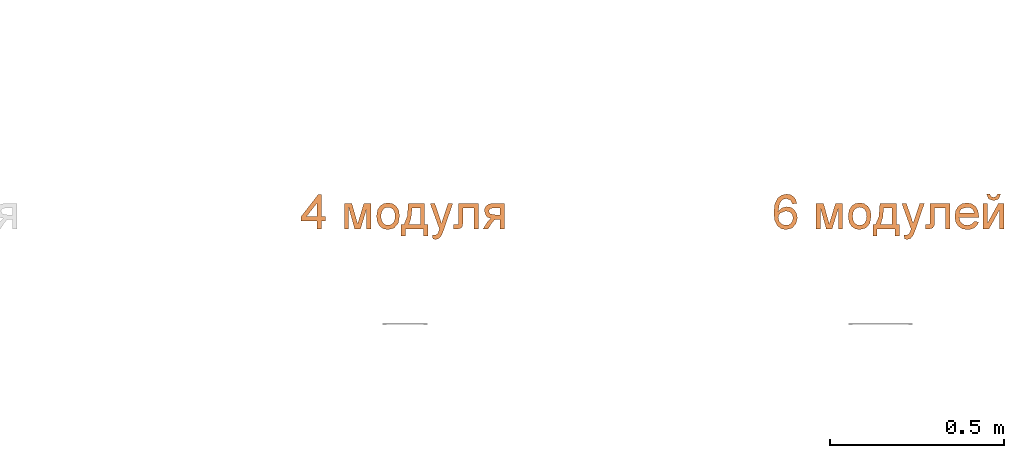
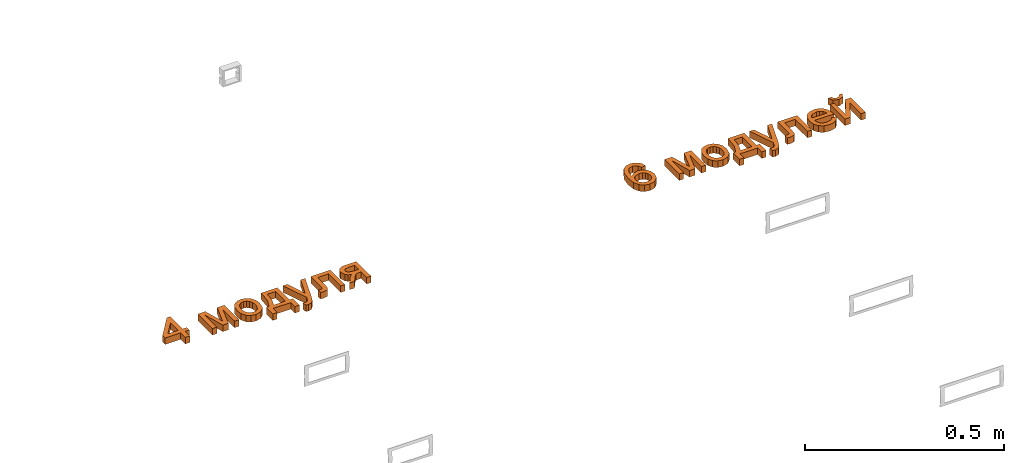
# One storey, part 61 of 87: 2 proxies.
"""IFC2X3 building model written with IfcOpenShell, lengths in millimetres."""

from ifc_helpers import new_model, entity, si_unit, converted_unit, derived_unit, direction, frame, origin, place, context, subcontext, project, spatial, polyline, outline, extrude, element, save


model = new_model("IFC2X3")

# Units and contexts
model_context = context("Model", 3, precision=0.01, world=origin(), true_north=direction((6.12303176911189e-17, 1.0)))
body_context = subcontext(model_context, "Body", "Model", "MODEL_VIEW")
ifc_project = project(units=[si_unit("LENGTHUNIT", "METRE", prefix="MILLI"), si_unit("AREAUNIT", "SQUARE_METRE"), si_unit("VOLUMEUNIT", "CUBIC_METRE"), converted_unit("PLANEANGLEUNIT", "DEGREE", entity("IfcRatioMeasure", 0.0174532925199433), si_unit("PLANEANGLEUNIT", "RADIAN"), dimensions=[0, 0, 0, 0, 0, 0, 0]), si_unit("MASSUNIT", "GRAM", prefix="KILO"), derived_unit("MASSDENSITYUNIT", [(si_unit("MASSUNIT", "GRAM", prefix="KILO"), 1), (si_unit("LENGTHUNIT", "METRE"), -3)]), si_unit("TIMEUNIT", "SECOND"), si_unit("FREQUENCYUNIT", "HERTZ"), si_unit("THERMODYNAMICTEMPERATUREUNIT", "DEGREE_CELSIUS"), derived_unit("THERMALTRANSMITTANCEUNIT", [(si_unit("MASSUNIT", "GRAM", prefix="KILO"), 1), (si_unit("THERMODYNAMICTEMPERATUREUNIT", "KELVIN"), -1), (si_unit("TIMEUNIT", "SECOND"), -3)]), derived_unit("VOLUMETRICFLOWRATEUNIT", [(si_unit("LENGTHUNIT", "METRE"), 3), (si_unit("TIMEUNIT", "SECOND"), -1)]), si_unit("ELECTRICCURRENTUNIT", "AMPERE"), si_unit("ELECTRICVOLTAGEUNIT", "VOLT"), si_unit("POWERUNIT", "WATT"), si_unit("FORCEUNIT", "NEWTON", prefix="KILO"), si_unit("ILLUMINANCEUNIT", "LUX"), si_unit("LUMINOUSFLUXUNIT", "LUMEN"), si_unit("LUMINOUSINTENSITYUNIT", "CANDELA"), derived_unit("USERDEFINED", [(si_unit("MASSUNIT", "GRAM", prefix="KILO"), -1), (si_unit("LENGTHUNIT", "METRE"), -2), (si_unit("TIMEUNIT", "SECOND"), 3), (si_unit("LUMINOUSFLUXUNIT", "LUMEN"), 1)]), derived_unit("LINEARVELOCITYUNIT", [(si_unit("LENGTHUNIT", "METRE"), 1), (si_unit("TIMEUNIT", "SECOND"), -1)]), si_unit("PRESSUREUNIT", "PASCAL"), derived_unit("USERDEFINED", [(si_unit("LENGTHUNIT", "METRE"), -2), (si_unit("MASSUNIT", "GRAM", prefix="KILO"), 1), (si_unit("TIMEUNIT", "SECOND"), -2)])], contexts=[model_context])

# Site, building, storey
site_placement = place(None, origin())
site = spatial("IfcSite", under=ifc_project, at=site_placement, Name="Default", CompositionType="ELEMENT")
building_placement = place(site_placement, origin())
building = spatial("IfcBuilding", under=site, at=building_placement, Name="Наименование здания", CompositionType="ELEMENT")
storey_placement = place(building_placement, origin())
storey = spatial("IfcBuildingStorey", under=building, at=storey_placement, Name="Этаж 01", CompositionType="ELEMENT", Elevation=0.0)

# Proxies
proxy_1_placement = place(storey_placement, origin())
element("IfcBuildingElementProxy", 1, at=proxy_1_placement, inside=storey, Name="Текст модели:100 мм Arial", ObjectType="Текст модели:100 мм Arial", context=body_context, shape_type="SweptSolid", body=[
    extrude(outline(polyline([(-1.14154897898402, -36.3868737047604), (11.4154897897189, -36.3868737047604), (11.4154897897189, -12.8424260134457), (23.9725285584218, -12.8424260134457), (23.9725285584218, -0.285387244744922), (11.4154897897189, -0.285387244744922), (11.4154897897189, 62.4998065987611), (1.99771071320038, 62.4998065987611), (-46.6608145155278, -0.285387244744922), (-46.6608145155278, -12.8424260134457), (-1.14154897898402, -12.8424260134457), (-1.14154897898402, -36.3868737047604)]), holes=[polyline([(-1.14154897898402, -0.285387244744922), (-31.2097707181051, -0.285387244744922), (-1.14154897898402, 38.5139005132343), (-1.14154897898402, -0.285387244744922)])]), frame((78423.44524561, -7332.08752143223, 0.0)), (0.0, 0.0, 1.0), 20.0),
    extrude(outline(polyline([(-40.5839870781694, -38.4502715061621), (33.1886156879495, -38.4502715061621), (33.1886156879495, -25.8932327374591), (-29.0570178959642, -25.8932327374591), (33.1886156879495, -8.62730443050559), (33.1886156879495, 7.8538089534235), (-26.2120637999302, 25.9045521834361), (33.1886156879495, 25.9045521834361), (33.1886156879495, 38.4615909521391), (-40.5839870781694, 38.4615909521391), (-40.5839870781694, 17.762097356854), (18.4733358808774, -0.190544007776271), (-40.5839870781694, -16.8433356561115), (-40.5839870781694, -38.4502715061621)])), frame((78539.2354604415, -7335.28577944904, 0.0), z_axis=(0.0, 0.0, 1.0), x_axis=(0.0, -1.0, 0.0)), (0.0, 0.0, 1.0), 20.0),
    extrude(outline(polyline([(-2.340297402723, -31.6984909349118), (14.273181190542, -31.6984909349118), (27.1869525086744, -26.5873672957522), (35.9909592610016, -17.1811275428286), (40.2751441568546, -4.2957792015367), (38.149171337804, 13.1690451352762), (27.2514955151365, 26.6485362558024), (5.67797919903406, 33.7446283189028), (-10.128054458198, 33.6081083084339), (-22.8059382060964, 28.39005695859), (-31.6389568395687, 18.9754531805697), (-35.9103951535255, 6.24927588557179), (-35.5406401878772, -5.97109031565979), (-30.8535887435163, -16.7835237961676), (-19.587012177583, -26.5692340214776), (-2.340297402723, -31.6984909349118)]), holes=[polyline([(-0.64294961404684, -19.2566729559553), (-11.6948097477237, -16.2599663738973), (-19.0989004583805, -10.8341828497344), (-22.9822632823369, -3.67356758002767), (-23.4719397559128, 4.52763423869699), (-20.7783225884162, 12.2046648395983), (-15.0781786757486, 18.035705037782), (-6.56600936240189, 21.2863283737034), (4.56368400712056, 21.2221083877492), (15.8675929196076, 18.1905150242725), (23.3961896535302, 12.7474982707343), (27.3267847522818, 5.5927250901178), (27.8366887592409, -2.57413755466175), (25.131722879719, -10.3331599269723), (19.4311586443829, -16.1672368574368), (10.8134498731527, -19.3753979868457), (-0.64294961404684, -19.2566729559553)])]), frame((78625.113361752, -7329.56024644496, 0.0), z_axis=(0.0, 0.0, 1.0), x_axis=(0.13710570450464, -0.99055642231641, 0.0)), (0.0, 0.0, 1.0), 20.0),
    extrude(outline(polyline([(-60.5357741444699, 21.8585403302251), (-64.1355131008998, -25.0925613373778), (-3.09908093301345, -29.7722219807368), (-3.81902872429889, -39.1624423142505), (29.0467424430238, -41.6822595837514), (30.0066728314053, -29.1619658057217), (9.66119544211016, -27.602078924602), (13.6209082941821, 24.0441329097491), (33.9663856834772, 22.4842460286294), (34.9263160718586, 35.0045398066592), (2.06054490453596, 37.5243570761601), (1.46058841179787, 29.6991734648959), (-23.1599571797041, 21.8585403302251), (-60.5357741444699, 21.8585403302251)]), holes=[polyline([(-48.8554194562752, 9.94335288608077), (-20.1051961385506, 10.6907678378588), (0.380666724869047, 15.6138429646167), (-2.13915054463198, -17.251928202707), (-50.6552889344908, -13.5321979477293), (-48.8554194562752, 9.94335288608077)])]), frame((78701.5987640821, -7356.73141319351, 0.0), z_axis=(0.0, 0.0, -1.0), x_axis=(-0.0764456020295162, -0.9970737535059, 0.0)), (0.0, 0.0, -1.0), 20.0),
    extrude(outline(polyline([(-9.37518561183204, -42.4598564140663), (-1.53988444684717, -42.4598564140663), (7.48239978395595, -37.7362595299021), (12.8451650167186, -27.6028387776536), (16.0988896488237, -10.2155558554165), (26.1240678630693, 68.9356869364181), (13.2448947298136, 66.3022457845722), (7.58427059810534, 21.3872733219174), (5.6533311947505, 6.22303112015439), (-2.4583338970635, 21.2864004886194), (-24.5276055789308, 58.5787952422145), (-37.5028919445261, 55.9257015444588), (3.36457727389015, -10.7416452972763), (3.01267387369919, -13.9176809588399), (1.50096319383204, -23.664192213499), (-1.30543571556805, -28.1807080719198), (-6.86672236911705, -30.7321996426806), (-13.3351736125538, -30.9283412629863), (-9.37518561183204, -42.4598564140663)])), frame((78772.7562603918, -7357.00669583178, 0.0), z_axis=(0.0, 0.0, 1.0), x_axis=(0.979728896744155, -0.200327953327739, 0.0)), (0.0, 0.0, 1.0), 20.0),
    extrude(outline(polyline([(-49.3689973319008, 12.5447760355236), (-49.3689973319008, -43.9618984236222), (24.3300290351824, -43.9618984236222), (24.3300290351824, -31.4048596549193), (-36.8119585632, -31.4048596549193), (-36.8119585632, -0.0122627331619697), (-1.61791435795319, -0.0122627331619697), (14.6179443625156, 0.833865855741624), (21.4728122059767, 5.4814417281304), (24.4036054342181, 16.4688506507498), (23.7659433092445, 26.6714446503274), (11.8465666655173, 26.6714446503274), (11.8465666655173, 21.0551128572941), (11.0740144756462, 15.3774673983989), (8.62146784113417, 13.1088617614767), (-2.3291528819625, 12.5447760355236), (-49.3689973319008, 12.5447760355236)])), frame((78841.3826028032, -7344.07078970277, 0.0), z_axis=(0.0, 0.0, -1.0), x_axis=(0.0, -1.0, 0.0)), (0.0, 0.0, -1.0), 20.0),
    extrude(outline(polyline([(-36.1880068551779, -39.1855638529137), (-3.42198381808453, -39.1855638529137), (7.43666640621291, -37.7079045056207), (15.3890488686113, -33.2749264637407), (20.2634853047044, -26.4691095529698), (21.8882974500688, -17.8729335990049), (17.1303569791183, -3.64816311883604), (11.0970922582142, 1.34890064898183), (2.51317903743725, 3.97925691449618), (13.2062823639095, 14.4271055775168), (25.8123720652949, 34.5870389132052), (11.2932959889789, 34.5870389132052), (1.28690572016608, 18.6454857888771), (-7.46868576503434, 7.92785699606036), (-16.7883629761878, 6.33370168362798), (-23.630968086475, 6.33370168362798), (-23.630968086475, 34.5870389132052), (-36.1880068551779, 34.5870389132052), (-36.1880068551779, -39.1855638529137)]), holes=[polyline([(-23.630968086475, -26.6285250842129), (-23.630968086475, -6.22333708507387), (-10.7796237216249, -6.22333708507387), (4.90441200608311, -8.81077378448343), (9.33125868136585, -16.9164404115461), (6.32688905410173, -23.722257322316), (-7.0762783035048, -26.6285250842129), (-23.630968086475, -26.6285250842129)])]), frame((78924.4987269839, -7333.88735622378, 0.0), z_axis=(0.0, 0.0, 1.0), x_axis=(-1.0, 0.0, 0.0)), (0.0, 0.0, 1.0), 20.0),
])
proxy_2_placement = place(storey_placement, origin())
element("IfcBuildingElementProxy", 2, at=proxy_2_placement, inside=storey, Name="Текст модели:100 мм Arial", ObjectType="Текст модели:100 мм Arial", context=body_context, shape_type="SweptSolid", body=[
    extrude(outline(polyline([(6.79275401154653, -32.5027761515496), (18.3659045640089, -32.5027761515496), (28.1525204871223, -28.8011371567), (35.6312934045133, -21.7178704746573), (40.2809149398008, -11.5729874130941), (41.4130789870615, 3.23667074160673), (36.1391243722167, 16.3729018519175), (21.8599739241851, 28.8803269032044), (-1.5083682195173, 38.2054593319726), (-23.6059131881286, 41.7609274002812), (-39.9814227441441, 38.5965283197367), (-51.1650797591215, 29.9216784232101), (-57.6870671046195, 16.9457940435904), (-57.9805556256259, -0.0494879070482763), (-49.2081886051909, -14.3141019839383), (-33.6167855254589, -22.935056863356), (-20.6265742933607, -24.2502330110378), (-8.97800352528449, -20.6254922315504), (0.0919027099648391, -13.0350962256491), (5.3461203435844, -2.45330669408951), (5.85483161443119, 11.6447254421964), (-0.843339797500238, 24.9910631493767), (19.7707676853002, 15.5765036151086), (28.4840991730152, 4.26766164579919), (28.3893512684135, -7.46374532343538), (19.995625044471, -18.1936336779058), (8.63303585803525, -19.9825396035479), (6.79275401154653, -32.5027761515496)]), holes=[polyline([(-18.7586717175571, 29.9549594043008), (-11.6328110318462, 26.3613362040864), (-6.94154076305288, 20.2038317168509), (-5.85783236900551, 4.13761066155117), (-9.48331864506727, -3.95286412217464), (-15.1077394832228, -9.26901644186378), (-22.309163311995, -11.5969098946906), (-30.6656585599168, -10.7226080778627), (-38.6094491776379, -7.06141592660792), (-43.8637090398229, -1.22509865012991), (-46.1835287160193, 6.17768396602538), (-45.3239987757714, 14.5382721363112), (-39.6901171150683, 24.7221971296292), (-30.0168134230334, 30.0585493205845), (-18.7586717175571, 29.9549594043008)])]), frame((79770.4636783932, -7309.92665686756, 0.0), z_axis=(0.0, 0.0, 1.0), x_axis=(-0.26701534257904, 0.963692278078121, 0.0)), (0.0, 0.0, 1.0), 20.0),
    extrude(outline(polyline([(-40.5839870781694, -38.4502715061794), (33.1886156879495, -38.4502715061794), (33.1886156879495, -25.8932327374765), (-29.0570178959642, -25.8932327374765), (33.1886156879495, -8.62730443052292), (33.1886156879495, 7.85380895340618), (-26.2120637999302, 25.9045521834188), (33.1886156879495, 25.9045521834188), (33.1886156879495, 38.4615909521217), (-40.5839870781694, 38.4615909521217), (-40.5839870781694, 17.7620973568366), (18.4733358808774, -0.190544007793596), (-40.5839870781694, -16.8433356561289), (-40.5839870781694, -38.4502715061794)])), frame((79893.3598993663, -7335.28577944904, 0.0), z_axis=(0.0, 0.0, 1.0), x_axis=(0.0, -1.0, 0.0)), (0.0, 0.0, 1.0), 20.0),
    extrude(outline(polyline([(-2.3402974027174, -31.698490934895), (14.2731811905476, -31.698490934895), (27.1869525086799, -26.5873672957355), (35.9909592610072, -17.1811275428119), (40.2751441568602, -4.29577920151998), (38.1491713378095, 13.1690451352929), (27.2514955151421, 26.6485362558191), (5.67797919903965, 33.7446283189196), (-10.1280544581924, 33.6081083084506), (-22.8059382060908, 28.3900569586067), (-31.6389568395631, 18.9754531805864), (-35.9103951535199, 6.2492758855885), (-35.5406401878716, -5.97109031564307), (-30.8535887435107, -16.7835237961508), (-19.5870121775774, -26.5692340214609), (-2.3402974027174, -31.698490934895)]), holes=[polyline([(-0.642949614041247, -19.2566729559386), (-11.6948097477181, -16.2599663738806), (-19.0989004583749, -10.8341828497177), (-22.9822632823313, -3.67356758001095), (-23.4719397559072, 4.5276342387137), (-20.7783225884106, 12.204664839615), (-15.078178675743, 18.0357050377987), (-6.56600936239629, 21.2863283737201), (4.56368400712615, 21.2221083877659), (15.8675929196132, 18.1905150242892), (23.3961896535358, 12.747498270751), (27.3267847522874, 5.59272509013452), (27.8366887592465, -2.57413755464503), (25.1317228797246, -10.3331599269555), (19.4311586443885, -16.16723685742), (10.8134498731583, -19.375397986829), (-0.642949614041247, -19.2566729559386)])]), frame((79979.2378006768, -7329.56024644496, 0.0), z_axis=(0.0, 0.0, 1.0), x_axis=(0.13710570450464, -0.99055642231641, 0.0)), (0.0, 0.0, 1.0), 20.0),
    extrude(outline(polyline([(-60.5357741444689, 21.8585403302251), (-64.1355131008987, -25.0925613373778), (-3.09908093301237, -29.7722219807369), (-3.81902872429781, -39.1624423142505), (29.0467424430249, -41.6822595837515), (30.0066728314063, -29.1619658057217), (9.66119544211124, -27.6020789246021), (13.6209082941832, 24.044132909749), (33.9663856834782, 22.4842460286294), (34.9263160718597, 35.0045398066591), (2.06054490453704, 37.52435707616), (1.46058841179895, 29.6991734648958), (-23.159957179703, 21.8585403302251), (-60.5357741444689, 21.8585403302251)]), holes=[polyline([(-48.8554194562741, 9.94335288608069), (-20.1051961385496, 10.6907678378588), (0.380666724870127, 15.6138429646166), (-2.1391505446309, -17.2519282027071), (-50.6552889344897, -13.5321979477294), (-48.8554194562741, 9.94335288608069)])]), frame((80055.7232030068, -7356.73141319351, 0.0), z_axis=(0.0, 0.0, -1.0), x_axis=(-0.0764456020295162, -0.9970737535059, 0.0)), (0.0, 0.0, -1.0), 20.0),
    extrude(outline(polyline([(-9.37518561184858, -42.4598564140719), (-1.53988444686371, -42.4598564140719), (7.48239978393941, -37.7362595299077), (12.8451650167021, -27.6028387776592), (16.0988896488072, -10.2155558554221), (26.1240678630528, 68.9356869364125), (13.2448947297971, 66.3022457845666), (7.5842705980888, 21.3872733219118), (5.65333119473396, 6.2230311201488), (-2.45833389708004, 21.2864004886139), (-24.5276055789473, 58.5787952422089), (-37.5028919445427, 55.9257015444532), (3.36457727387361, -10.7416452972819), (3.01267387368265, -13.9176809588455), (1.5009631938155, -23.6641922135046), (-1.30543571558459, -28.1807080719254), (-6.86672236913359, -30.7321996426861), (-13.3351736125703, -30.9283412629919), (-9.37518561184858, -42.4598564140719)])), frame((80126.8806993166, -7357.00669583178, 0.0), z_axis=(0.0, 0.0, 1.0), x_axis=(0.979728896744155, -0.200327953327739, 0.0)), (0.0, 0.0, 1.0), 20.0),
    extrude(outline(polyline([(-49.3689973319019, 12.5447760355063), (-49.3689973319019, -43.9618984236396), (24.3300290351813, -43.9618984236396), (24.3300290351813, -31.4048596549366), (-36.8119585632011, -31.4048596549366), (-36.8119585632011, -0.0122627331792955), (-1.61791435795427, -0.0122627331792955), (14.6179443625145, 0.833865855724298), (21.4728122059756, 5.48144172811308), (24.403605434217, 16.4688506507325), (23.7659433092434, 26.6714446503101), (11.8465666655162, 26.6714446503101), (11.8465666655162, 21.0551128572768), (11.0740144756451, 15.3774673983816), (8.62146784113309, 13.1088617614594), (-2.32915288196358, 12.5447760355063), (-49.3689973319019, 12.5447760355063)])), frame((80195.507041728, -7344.07078970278, 0.0), z_axis=(0.0, 0.0, -1.0), x_axis=(0.0, -1.0, 0.0)), (0.0, 0.0, -1.0), 20.0),
    extrude(outline(polyline([(-8.10128238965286, -20.375172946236), (-15.5352214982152, -30.3140016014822), (-5.78400372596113, -33.5775071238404), (4.12185089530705, -33.3132173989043), (13.8776168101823, -29.4480778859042), (23.1785684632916, -21.909034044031), (31.6380426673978, -9.59237957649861), (34.1620486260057, 3.74135328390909), (30.6040508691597, 17.2442201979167), (20.817513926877, 30.0682768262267), (7.27698270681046, 39.7846728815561), (-6.66179525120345, 43.1117813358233), (-19.9642596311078, 40.422123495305), (-31.5958501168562, 32.0882206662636), (-39.2435519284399, 20.5090048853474), (-41.3106827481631, 7.34319797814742), (-37.4373707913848, -6.34962495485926), (-27.263744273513, -19.5098888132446), (-24.7804584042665, -21.8106804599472), (14.4643272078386, 18.7422646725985), (19.7071986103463, 10.6437992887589), (21.1614672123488, 2.21005051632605), (19.1472085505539, -5.98136753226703), (13.9844981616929, -13.3528407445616), (3.5368460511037, -20.375172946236), (-8.10128238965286, -20.375172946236)]), holes=[polyline([(5.44081225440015, 27.4746984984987), (-25.1227061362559, -4.10760383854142), (-29.8038819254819, 7.41909510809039), (-27.8851342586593, 15.7498710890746), (-22.5382240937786, 23.3910349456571), (-8.40970331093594, 31.2368652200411), (-1.0807268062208, 30.9147288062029), (5.44081225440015, 27.4746984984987)])]), frame((80289.6796821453, -7338.15184431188, 0.0), z_axis=(0.0, 0.0, -1.0), x_axis=(-0.695421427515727, -0.718602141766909, 0.0)), (0.0, 0.0, -1.0), 20.0),
    extrude(outline(polyline([(-11.1429830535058, -6.65049913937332), (-15.3141401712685, -15.0941956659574), (-0.0922190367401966, -15.8161107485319), (10.2631635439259, -5.84547547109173), (12.416217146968, 9.42172447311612), (2.76087400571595, 21.4951559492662), (-1.41028311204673, 13.0514594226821), (3.36929976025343, 6.75127419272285), (2.31913688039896, -0.662833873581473), (-3.16906596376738, -6.65049913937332), (-11.1429830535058, -6.65049913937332)])), frame((80365.1288457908, -7275.06302519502, 0.0), z_axis=(0.0, 0.0, -1.0), x_axis=(-0.442902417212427, -0.896569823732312, 0.0)), (0.0, 0.0, -1.0), 20.0),
    extrude(outline(polyline([(-36.9206370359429, -29.8425874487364), (36.851965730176, -29.8425874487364), (36.851965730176, -13.4105249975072), (-19.0660975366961, 17.2463079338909), (36.851965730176, 17.2463079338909), (36.851965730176, 29.8033467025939), (-36.9206370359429, 29.8033467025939), (-36.9206370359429, 13.5674879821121), (19.3407827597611, -17.2855486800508), (-36.9206370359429, -17.2855486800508), (-36.9206370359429, -29.8425874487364)])), frame((80365.0589482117, -7331.62242940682, 0.0), z_axis=(0.0, 0.0, 1.0), x_axis=(0.0, -1.0, 0.0)), (0.0, 0.0, 1.0), 20.0),
])

save(model, "model.ifc")
